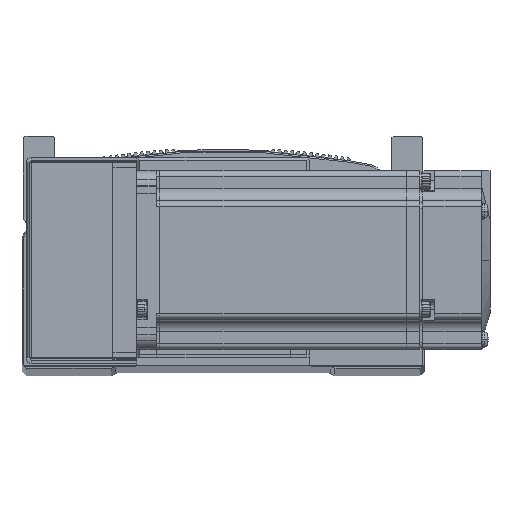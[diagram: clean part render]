
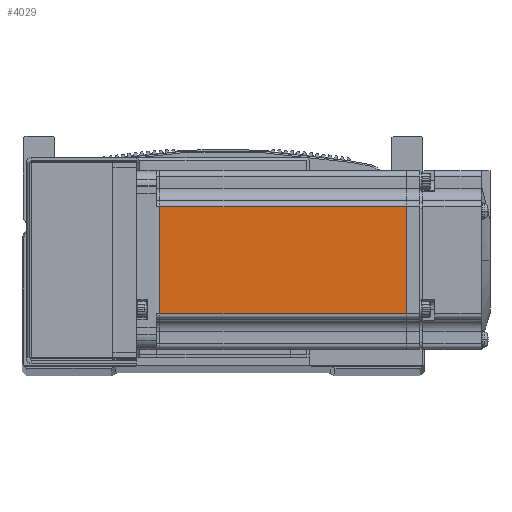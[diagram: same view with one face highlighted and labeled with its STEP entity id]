
A CAD part, top view. The second image highlights one B-rep face of the part: STEP entity #4029.
In plain terms, the highlighted planar face has unit normal (0, 0, 1) as drawn and (0, 0, -1) by its records, which use the part's own axes.
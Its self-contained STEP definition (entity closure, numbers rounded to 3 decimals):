
#4029 = ADVANCED_FACE ( 'NONE', ( #72405 ), #12352, .T. ) ;
#12352 = PLANE ( 'NONE',  #67694 ) ;
#12373 = CARTESIAN_POINT ( 'NONE',  ( -6.5, 25., -30. ) ) ;
#12383 = DIRECTION ( 'NONE',  ( -1., 0., 0. ) ) ;
#12411 = DIRECTION ( 'NONE',  ( 0., 0., -1. ) ) ;
#14291 = CARTESIAN_POINT ( 'NONE',  ( -6.5, 18., -30. ) ) ;
#14295 = DIRECTION ( 'NONE',  ( 1., 0., 0. ) ) ;
#14339 = CARTESIAN_POINT ( 'NONE',  ( -6.5, -18., -30. ) ) ;
#14344 = DIRECTION ( 'NONE',  ( -1., 0., 0. ) ) ;
#14465 = CARTESIAN_POINT ( 'NONE',  ( -90.45, 25., -30. ) ) ;
#14537 = DIRECTION ( 'NONE',  ( 0., 1., 0. ) ) ;
#14570 = CARTESIAN_POINT ( 'NONE',  ( -7.75, 25., -30. ) ) ;
#14655 = DIRECTION ( 'NONE',  ( 0., -1., 0. ) ) ;
#28053 = LINE ( 'NONE', #14291, #28108 ) ;
#28054 = VECTOR ( 'NONE', #14344, 1000. ) ;
#28092 = LINE ( 'NONE', #14339, #28054 ) ;
#28108 = VECTOR ( 'NONE', #14295, 1000. ) ;
#28145 = LINE ( 'NONE', #14465, #28149 ) ;
#28149 = VECTOR ( 'NONE', #14537, 1000. ) ;
#28154 = LINE ( 'NONE', #14570, #28157 ) ;
#28157 = VECTOR ( 'NONE', #14655, 1000. ) ;
#36932 = ORIENTED_EDGE ( 'NONE', *, *, #37244, .T. ) ;
#36933 = ORIENTED_EDGE ( 'NONE', *, *, #37198, .T. ) ;
#36938 = ORIENTED_EDGE ( 'NONE', *, *, #37172, .T. ) ;
#37065 = ORIENTED_EDGE ( 'NONE', *, *, #37226, .T. ) ;
#37172 = EDGE_CURVE ( 'NONE', #65877, #65952, #28053, .T. ) ;
#37198 = EDGE_CURVE ( 'NONE', #65891, #65924, #28092, .T. ) ;
#37226 = EDGE_CURVE ( 'NONE', #65924, #65877, #28145, .T. ) ;
#37244 = EDGE_CURVE ( 'NONE', #65952, #65891, #28154, .T. ) ;
#41572 = CARTESIAN_POINT ( 'NONE',  ( -90.45, -18., -30. ) ) ;
#41595 = CARTESIAN_POINT ( 'NONE',  ( -90.45, 18., -30. ) ) ;
#41599 = CARTESIAN_POINT ( 'NONE',  ( -7.75, -18., -30. ) ) ;
#41673 = CARTESIAN_POINT ( 'NONE',  ( -7.75, 18., -30. ) ) ;
#58703 = EDGE_LOOP ( 'NONE', ( #36932, #36933, #37065, #36938 ) ) ;
#65877 = VERTEX_POINT ( 'NONE', #41595 ) ;
#65891 = VERTEX_POINT ( 'NONE', #41599 ) ;
#65924 = VERTEX_POINT ( 'NONE', #41572 ) ;
#65952 = VERTEX_POINT ( 'NONE', #41673 ) ;
#67694 = AXIS2_PLACEMENT_3D ( 'NONE', #12373, #12411, #12383 ) ;
#72405 = FACE_OUTER_BOUND ( 'NONE', #58703, .T. ) ;
